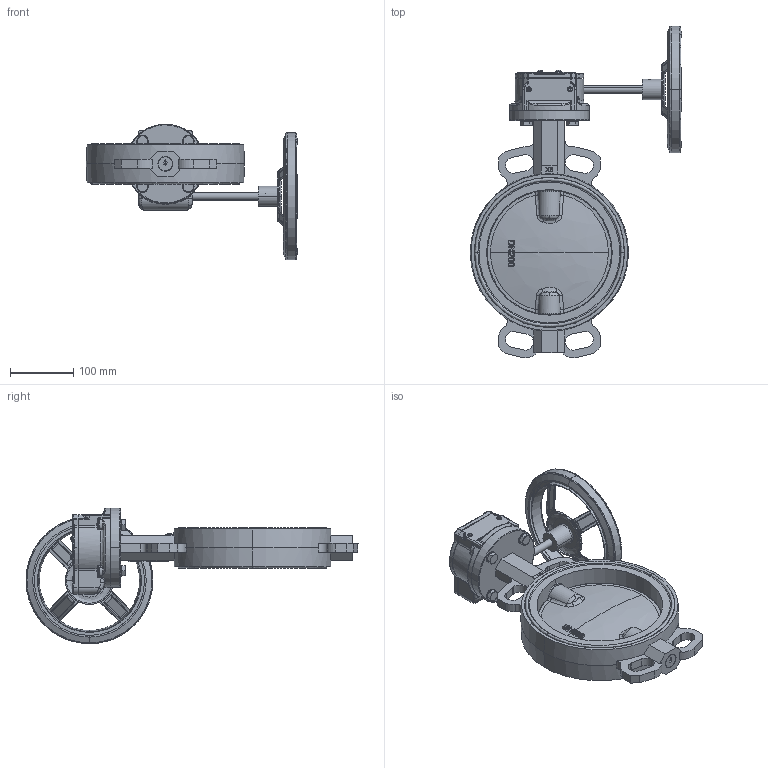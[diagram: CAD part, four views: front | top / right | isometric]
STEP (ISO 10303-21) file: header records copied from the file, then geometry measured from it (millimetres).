
FILE_DESCRIPTION (( 'STEP AP203' ), '1' );
FILE_NAME ('VPI-08 DN200.step', '2016-09-29T14:01:27', ( 'TECOFI' ), ( '' ), 'SwSTEP 2.0', 'SolidWorks 2014', '' );
FILE_SCHEMA (( 'CONFIG_CONTROL_DESIGN' ));
Length unit declared in the file: millimetre
Products named in the file (1): VPI-08 DN200
Bounding box: 333.35 x 523.42 x 213.7 mm (x, y, z)
Volume: 2542210.2 mm3; surface area: 587567.4 mm2
Topology: 36 solids, 36 shells, 3155 faces, 8067 edges, 5021 vertices
Faces by surface type: plane 1197, bspline 1043, cylinder 675, cone 232, torus 8
Entity records: 144861 total; most frequent: CARTESIAN_POINT 76167, ORIENTED_EDGE 15926, DIRECTION 11914, EDGE_CURVE 7963, VERTEX_POINT 5021, AXIS2_PLACEMENT_3D 4121, VECTOR 3672, LINE 3672
